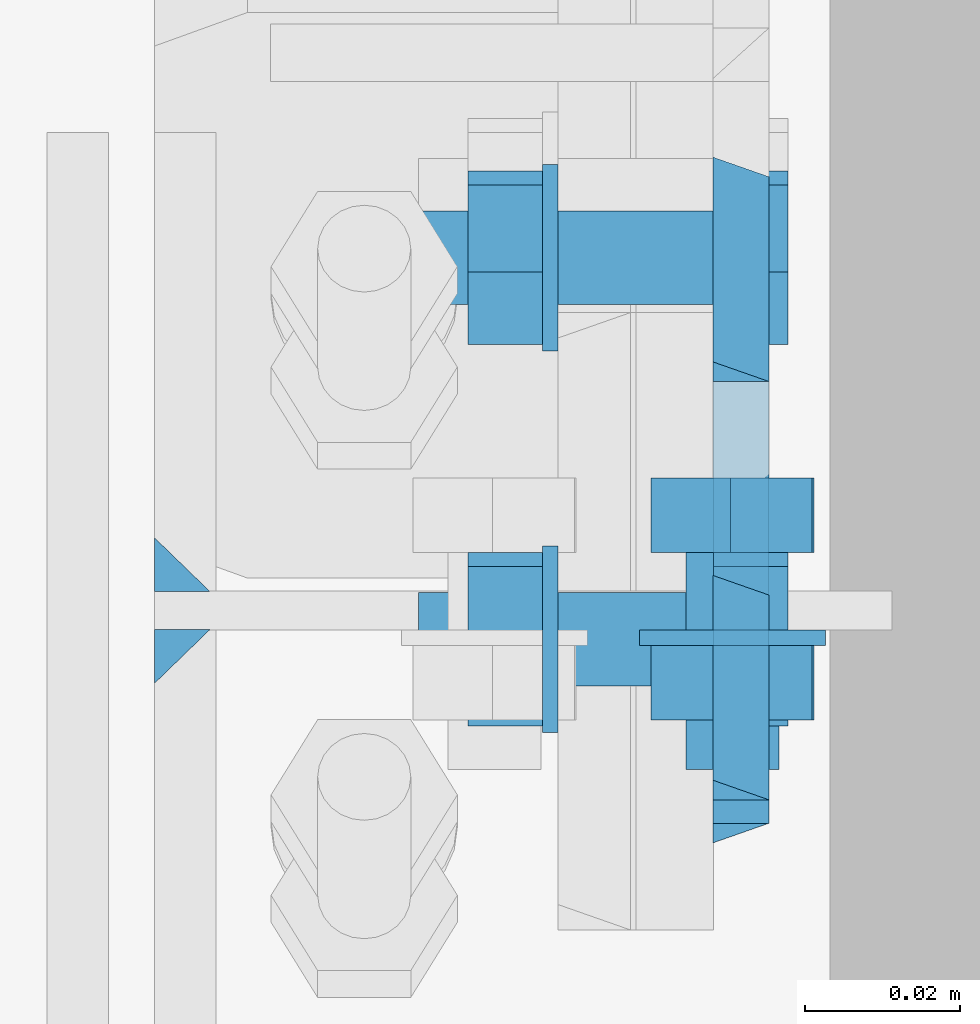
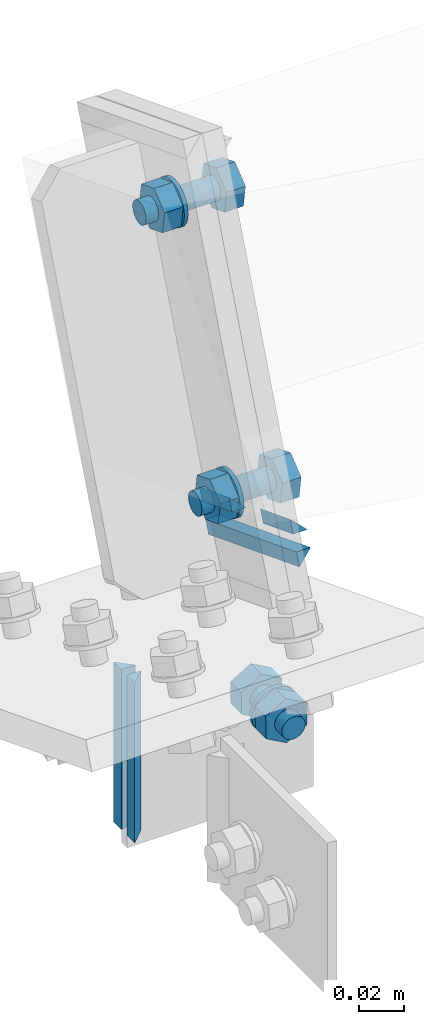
# One storey, part 41 of 72: 12 mechanical fasteners, 8 fasteners.
"""IFC4 building model written with IfcOpenShell, lengths in metres."""

import ifcopenshell
import ifcopenshell.guid

model = None  # the IFC model being written
_history = None  # IfcOwnerHistory: only IFC2X3 demands one
_inside = {}  # id of a spatial element -> (the spatial element, [elements in it])
_under = {}  # id of a project, library or spatial element -> (it, [spatial elements below it])
_declared = {}  # id of a project -> (the project, [libraries it declares])
_typed = {}  # id of a type object -> (the type object, [elements of that type])
_made_of = {}  # id of a material, layer set ... -> (it, [elements and type objects made of it])


def new_model(schema):
    """Start an empty IFC model of exactly this schema.

    Asked for "IFC4X3", IfcOpenShell would pick the latest addendum, in which some entities
    have other attributes; the version numbers below select the first issue.
    IFC2X3 requires an IfcOwnerHistory on every rooted entity: one is made here for all.
    """
    global model, _history
    if schema == "IFC4X3":
        model = ifcopenshell.file(schema_version=(4, 3, 0, 0))
    else:
        model = ifcopenshell.file(schema=schema)
    _inside.clear()
    _under.clear()
    _declared.clear()
    _typed.clear()
    _made_of.clear()
    _history = None
    if model.schema == "IFC2X3":
        org = make("IfcOrganization", Name="unknown")
        user = make(
            "IfcPersonAndOrganization",
            ThePerson=make("IfcPerson", FamilyName="unknown"),
            TheOrganization=org,
        )
        app = make(
            "IfcApplication",
            ApplicationDeveloper=org,
            Version="unknown",
            ApplicationFullName="unknown",
            ApplicationIdentifier="unknown",
        )
        _history = make(
            "IfcOwnerHistory",
            OwningUser=user,
            OwningApplication=app,
            ChangeAction="ADDED",
            CreationDate=0,
        )
    return model


def make(cls, **values):
    """One entity of the class cls with the attributes given. An attribute that is None is left unset."""
    return model.create_entity(
        cls, **{name: value for name, value in values.items() if value is not None}
    )


def rooted(cls, **values):
    """An entity with a GlobalId (a new one), such as an element, a storey or a relation."""
    return make(cls, GlobalId=ifcopenshell.guid.new(), OwnerHistory=_history, **values)


def si_unit(unit_type, name, prefix=None):
    """IfcSIUnit, for example si_unit("LENGTHUNIT", "METRE", prefix="MILLI")."""
    return make("IfcSIUnit", UnitType=unit_type, Prefix=prefix, Name=name)


def assignment(units):
    """IfcUnitAssignment: the units of a project."""
    return None if units is None else make("IfcUnitAssignment", Units=units)


def point(xyz):
    """IfcCartesianPoint."""
    return None if xyz is None else make("IfcCartesianPoint", Coordinates=xyz)


def direction(xyz):
    """IfcDirection."""
    return None if xyz is None else make("IfcDirection", DirectionRatios=xyz)


def frame(location, z_axis=None, x_axis=None):
    """IfcAxis2Placement3D, a coordinate frame: its origin and axes. An axis left out is left unset."""
    return make(
        "IfcAxis2Placement3D",
        Location=point(location),
        Axis=direction(z_axis),
        RefDirection=direction(x_axis),
    )


def origin_with_axes():
    """The frame at (0, 0, 0) with the z axis (0, 0, 1) and the x axis (1, 0, 0) written out."""
    return frame((0.0, 0.0, 0.0), z_axis=(0.0, 0.0, 1.0), x_axis=(1.0, 0.0, 0.0))


def place(relative_to, where):
    """IfcLocalPlacement: puts the frame where relative to a parent placement (None: the world)."""
    return make(
        "IfcLocalPlacement", PlacementRelTo=relative_to, RelativePlacement=where
    )


def context(
    kind, dimensions, precision=None, world=None, true_north=None, identifier=None
):
    """IfcGeometricRepresentationContext, for example the 3D "Model" context."""
    return make(
        "IfcGeometricRepresentationContext",
        ContextIdentifier=identifier,
        ContextType=kind,
        CoordinateSpaceDimension=dimensions,
        Precision=precision,
        WorldCoordinateSystem=world,
        TrueNorth=true_north,
    )


def project(units=None, contexts=None):
    """IfcProject with its units and contexts."""
    return rooted(
        "IfcProject",
        Name="project",
        RepresentationContexts=contexts,
        UnitsInContext=assignment(units),
    )


def spatial(cls, under=None, at=None, **own):
    """A site, building, storey or space (cls), placed at a placement, below another one or the project."""
    s = rooted(cls, ObjectPlacement=at, **own)
    if under is not None:
        _under.setdefault(under.id(), (under, []))[1].append(s)
    return s


def polyline(points):
    """IfcPolyline through the points."""
    return make("IfcPolyline", Points=[point(p) for p in points])


def outline(outer, holes=None, kind="AREA"):
    """IfcArbitraryClosedProfileDef: a profile drawn as a closed curve; with holes, ...WithVoids."""
    if holes is None:
        return make("IfcArbitraryClosedProfileDef", ProfileType=kind, OuterCurve=outer)
    return make(
        "IfcArbitraryProfileDefWithVoids",
        ProfileType=kind,
        OuterCurve=outer,
        InnerCurves=holes,
    )


def extrude(swept, where, along, depth):
    """IfcExtrudedAreaSolid: the profile swept, set in the frame where, extruded along a direction by depth."""
    return make(
        "IfcExtrudedAreaSolid",
        SweptArea=swept,
        Position=where,
        ExtrudedDirection=direction(along),
        Depth=depth,
    )


def shape(context_of_items, identifier, shape_type, items):
    """IfcShapeRepresentation: the items that make up one representation, for example the "Body"."""
    return make(
        "IfcShapeRepresentation",
        ContextOfItems=context_of_items,
        RepresentationIdentifier=identifier,
        RepresentationType=shape_type,
        Items=items,
    )


def made_of(thing, what):
    """Note that an element or type object is made of a material, layer set ...; save() writes the relation."""
    if what is not None:
        _made_of.setdefault(what.id(), (what, []))[1].append(thing)
    return thing


def type_object(cls, material=None, **own):
    """A type object (cls), such as IfcWallType, which elements share."""
    return made_of(rooted(cls, **own), material)


def element(
    cls,
    number,
    at=None,
    inside=None,
    cuts=None,
    type_object=None,
    material=None,
    context=None,
    identifier="Body",
    shape_type=None,
    held_by="IfcProductDefinitionShape",
    body=None,
    shapes=None,
    **own,
):
    """One element of the class cls, such as IfcWall. Its Tag is "e" and its number.

    at: its placement. inside: the storey or other place that contains it. cuts: it is an
    opening in that element (IfcRelVoidsElement). A single representation is given by context,
    identifier, shape_type and body (its items); several are given by shapes. held_by: the class
    of the entity that holds the representations. save() writes the other relations.
    """
    e = rooted(cls, Tag="e%d" % number, ObjectPlacement=at, **own)
    if body is not None:
        shapes = [shape(context, identifier, shape_type, body)]
    if shapes is not None:
        e.Representation = make(held_by, Representations=shapes)
    if inside is not None:
        _inside.setdefault(inside.id(), (inside, []))[1].append(e)
    if cuts is not None:
        rooted(
            "IfcRelVoidsElement", RelatingBuildingElement=cuts, RelatedOpeningElement=e
        )
    if type_object is not None:
        _typed.setdefault(type_object.id(), (type_object, []))[1].append(e)
    return made_of(e, material)


def aggregate(whole, parts):
    """IfcRelAggregates: a whole, such as a stair, and the parts it consists of."""
    return rooted("IfcRelAggregates", RelatingObject=whole, RelatedObjects=parts)


def save(model, path):
    """Write the relations noted so far, then the file.

    IfcRelAggregates (storeys below a building ...), IfcRelContainedInSpatialStructure (elements
    in a storey), IfcRelDefinesByType, IfcRelAssociatesMaterial and IfcRelDeclares: one each for
    every whole, place, type object, material and project.
    """
    for whole, parts in _under.values():
        aggregate(whole, parts)
    for where, things in _inside.values():
        rooted(
            "IfcRelContainedInSpatialStructure",
            RelatedElements=things,
            RelatingStructure=where,
        )
    for kind, things in _typed.values():
        rooted("IfcRelDefinesByType", RelatedObjects=things, RelatingType=kind)
    for what, things in _made_of.values():
        rooted("IfcRelAssociatesMaterial", RelatedObjects=things, RelatingMaterial=what)
    for by, libraries in _declared.values():
        rooted("IfcRelDeclares", RelatingContext=by, RelatedDefinitions=libraries)
    model.write(path)


model = new_model("IFC4")

# Units and contexts
model_context = context("Model", 3, precision=1e-05, world=origin_with_axes())
ifc_project = project(units=[si_unit("LENGTHUNIT", "METRE"), si_unit("AREAUNIT", "SQUARE_METRE"), si_unit("VOLUMEUNIT", "CUBIC_METRE"), si_unit("MASSUNIT", "GRAM", prefix="KILO"), si_unit("TIMEUNIT", "SECOND"), si_unit("PLANEANGLEUNIT", "RADIAN"), si_unit("SOLIDANGLEUNIT", "STERADIAN"), si_unit("THERMODYNAMICTEMPERATUREUNIT", "DEGREE_CELSIUS")], contexts=[model_context])

# Site, building, storey
placement_1 = place(None, origin_with_axes())
site = spatial("IfcSite", under=ifc_project, at=placement_1, Name="Italia", CompositionType="ELEMENT")
building = spatial("IfcBuilding", under=site, at=placement_1, Name="Uffici", CompositionType="ELEMENT")
storey = spatial("IfcBuildingStorey", under=building, at=placement_1, Name="Storey 0", CompositionType="ELEMENT", Elevation=0.0)

# Mechanical fasteners
mechanical_fastener_type_1 = type_object("IfcMechanicalFastenerType", Name="Collegamento 0206_0107", PredefinedType="BOLT")
placement_2 = place(placement_1, origin_with_axes())
mechanical_fastener_1_placement = place(placement_2, origin_with_axes())
element("IfcMechanicalFastener", 1, at=mechanical_fastener_1_placement, inside=storey, type_object=mechanical_fastener_type_1, Name="Collegamento 0206_0107", NominalDiameter=0.0119996, context=model_context, shape_type="SweptSolid", body=[
    extrude(outline(polyline([(0.0, 0.0), (0.0105101, 0.00579119), (0.0107499, 0.0177884), (0.000479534, 0.0239949), (-0.0100306, 0.0182037), (-0.0102704, 0.00620651), (0.0, 0.0)])), frame((0.0776865, 4.8225, 5.05742), z_axis=(0.0, 1.0, 0.0), x_axis=(-1.0, 0.0, 0.0)), (0.0, 0.0, 1.0), 0.00960016),
])
mechanical_fastener_type_2 = type_object("IfcMechanicalFastenerType", Name="Collegamento 0206_0107", PredefinedType="BOLT")
mechanical_fastener_2_placement = place(placement_2, origin_with_axes())
element("IfcMechanicalFastener", 2, at=mechanical_fastener_2_placement, inside=storey, type_object=mechanical_fastener_type_2, Name="Collegamento 0206_0107", NominalDiameter=0.012, context=model_context, shape_type="SweptSolid", body=[
    extrude(outline(polyline([(0.0, 0.0), (-0.000204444, -0.00155306), (-0.000803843, -0.00299978), (-0.00175735, -0.00424242), (-0.003, -0.00519609), (-0.00444708, -0.00579548), (-0.006, -0.00600004), (-0.00755291, -0.00579548), (-0.009, -0.00519609), (-0.0102426, -0.00424242), (-0.0111962, -0.00299978), (-0.0117956, -0.00155306), (-0.012, 0.0), (-0.0117956, 0.00155306), (-0.0111962, 0.00299978), (-0.0102426, 0.00424242), (-0.009, 0.00519609), (-0.00755291, 0.00579548), (-0.006, 0.00600004), (-0.00444708, 0.00579548), (-0.003, 0.00519609), (-0.00175735, 0.00424242), (-0.000803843, 0.00299978), (-0.000204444, 0.00155306), (0.0, 0.0)])), frame((0.0714468, 4.7945, 5.06941), z_axis=(0.0, 1.0, 0.0), x_axis=(-1.0, 0.0, 0.0)), (0.0, 0.0, 1.0), 0.0279999),
])
mechanical_fastener_type_3 = type_object("IfcMechanicalFastenerType", Name="Collegamento 0206_0107", PredefinedType="BOLT")
mechanical_fastener_3_placement = place(placement_2, origin_with_axes())
element("IfcMechanicalFastener", 3, at=mechanical_fastener_3_placement, inside=storey, type_object=mechanical_fastener_type_3, Name="Collegamento 0206_0107", NominalDiameter=0.0119996, context=model_context, shape_type="SweptSolid", body=[
    extrude(outline(polyline([(0.0, 0.0), (0.0105101, 0.00579119), (0.0107499, 0.0177884), (0.000479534, 0.0239949), (-0.0100306, 0.0182037), (-0.0102704, 0.00620651), (0.0, 0.0)])), frame((0.0776865, 4.8009, 5.05742), z_axis=(0.0, 1.0, 0.0), x_axis=(-1.0, 0.0, 0.0)), (0.0, 0.0, 1.0), 0.00960016),
])
mechanical_fastener_type_4 = type_object("IfcMechanicalFastenerType", Name="Collegamento 0206_0107", PredefinedType="BOLT")
mechanical_fastener_4_placement = place(placement_2, origin_with_axes())
element("IfcMechanicalFastener", 4, at=mechanical_fastener_4_placement, inside=storey, type_object=mechanical_fastener_type_4, Name="Collegamento 0206_0107", NominalDiameter=0.024, context=model_context, shape_type="SweptSolid", body=[
    extrude(outline(polyline([(0.0, 0.0), (-0.000408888, -0.00310564), (-0.0016077, -0.00600004), (-0.00351472, -0.00848532), (-0.006, -0.0103922), (-0.00889418, -0.011591), (-0.012, -0.0120001), (-0.0151058, -0.011591), (-0.018, -0.0103922), (-0.0204853, -0.00848532), (-0.0223923, -0.00600004), (-0.0235911, -0.00310564), (-0.024, 0.0), (-0.0235911, 0.00310564), (-0.0223923, 0.00600004), (-0.0204853, 0.00848532), (-0.018, 0.0103922), (-0.0151058, 0.011591), (-0.012, 0.0120001), (-0.00889418, 0.011591), (-0.006, 0.0103922), (-0.00351471, 0.00848532), (-0.00160769, 0.00600004), (-0.000408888, 0.00310564), (0.0, 0.0)])), frame((0.0654468, 4.8105, 5.06941), z_axis=(0.0, 1.0, 0.0), x_axis=(-1.0, 0.0, 0.0)), (0.0, 0.0, 1.0), 0.00199986),
])

# Fasteners
fastener_type_1 = type_object("IfcFastenerType", Name="Collegamento 0206_0107", PredefinedType="WELD")
fastener_1_placement = place(placement_2, origin_with_axes())
element("IfcFastener", 5, at=fastener_1_placement, inside=storey, type_object=fastener_type_1, Name="Collegamento 0206_0107", context=model_context, shape_type="SweptSolid", body=[
    extrude(outline(polyline([(0.0, 0.0), (0.00695801, 0.00717336), (0.00695801, 0.0), (0.0, 0.0)])), frame((0.00295, 4.80559, 5.113), z_axis=(4.78643472e-07, 0.0, -1.0), x_axis=(0.0, 1.0, 0.0)), (0.0, 0.0, 1.0), 0.0860996),
])
fastener_type_2 = type_object("IfcFastenerType", Name="Collegamento 0206_0107", PredefinedType="WELD")
fastener_2_placement = place(placement_2, origin_with_axes())
element("IfcFastener", 6, at=fastener_2_placement, inside=storey, type_object=fastener_type_2, Name="Collegamento 0206_0107", context=model_context, shape_type="SweptSolid", body=[
    extrude(outline(polyline([(0.0, 0.0), (-0.00695801, -0.00717336), (-0.00695801, 0.0), (0.0, 0.0)])), frame((0.00295004, 4.82441, 5.0269), z_axis=(-4.78643472e-07, 0.0, 1.0), x_axis=(0.0, 1.0, 0.0)), (0.0, 0.0, 1.0), 0.0860996),
])
fastener_type_3 = type_object("IfcFastenerType", Name="Collegamento 0206_0207", PredefinedType="WELD")
fastener_3_placement = place(placement_2, origin_with_axes())
element("IfcFastener", 7, at=fastener_3_placement, inside=storey, type_object=fastener_type_3, Name="Collegamento 0206_0207", context=model_context, shape_type="SweptSolid", body=[
    extrude(outline(polyline([(0.0, 0.0), (0.00717336, -0.00695753), (0.0, -0.00695753), (0.0, 0.0)])), frame((0.07495, 4.87342, 5.15233), z_axis=(0.0, -0.932390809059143, 0.361451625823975), x_axis=(1.0, 0.0, 0.0)), (0.0, 0.0, 1.0), 0.0283001),
])
fastener_type_4 = type_object("IfcFastenerType", Name="Collegamento 0206_0207", PredefinedType="WELD")
fastener_4_placement = place(placement_2, origin_with_axes())
element("IfcFastener", 8, at=fastener_4_placement, inside=storey, type_object=fastener_type_4, Name="Collegamento 0206_0207", context=model_context, shape_type="SweptSolid", body=[
    extrude(outline(polyline([(0.0, 0.0), (-0.00717336, 0.00695848), (0.0, 0.00695848), (0.0, 0.0)])), frame((0.07495, 4.78507, 5.16264), z_axis=(0.0, 0.932385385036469, -0.361465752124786), x_axis=(-1.0, 0.0, 0.0)), (0.0, 0.0, 1.0), 0.0861),
])
fastener_type_5 = type_object("IfcFastenerType", Name="Collegamento 0206_0207", PredefinedType="WELD")
fastener_5_placement = place(placement_2, origin_with_axes())
element("IfcFastener", 9, at=fastener_5_placement, inside=storey, type_object=fastener_type_5, Name="Collegamento 0206_0207", context=model_context, shape_type="SweptSolid", body=[
    extrude(outline(polyline([(0.0, 0.0), (0.00717336, -0.00695801), (0.0, -0.00695801), (0.0, 0.0)])), frame((0.07495, 4.81952, 5.17322), z_axis=(0.0, -0.932381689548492, 0.361475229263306), x_axis=(1.0, 0.0, 0.0)), (0.0, 0.0, 1.0), 0.0283009),
])
fastener_type_6 = type_object("IfcFastenerType", Name="Collegamento 0206_0207", PredefinedType="WELD")
fastener_6_placement = place(placement_2, origin_with_axes())
element("IfcFastener", 10, at=fastener_6_placement, inside=storey, type_object=fastener_type_6, Name="Collegamento 0206_0207", context=model_context, shape_type="SweptSolid", body=[
    extrude(outline(polyline([(0.0, 0.0), (0.00717336, -0.00695753), (0.0, -0.00695753), (0.0, 0.0)])), frame((0.07495, 4.87342, 5.15233), z_axis=(0.0, -0.932390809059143, 0.361451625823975), x_axis=(1.0, 0.0, 0.0)), (0.0, 0.0, 1.0), 0.0283001),
])
fastener_type_7 = type_object("IfcFastenerType", Name="Collegamento 0206_0207", PredefinedType="WELD")
fastener_7_placement = place(placement_2, origin_with_axes())
element("IfcFastener", 11, at=fastener_7_placement, inside=storey, type_object=fastener_type_7, Name="Collegamento 0206_0207", context=model_context, shape_type="SweptSolid", body=[
    extrude(outline(polyline([(0.0, 0.0), (-0.00717336, 0.00695848), (0.0, 0.00695848), (0.0, 0.0)])), frame((0.07495, 4.78507, 5.16264), z_axis=(0.0, 0.932385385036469, -0.361465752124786), x_axis=(-1.0, 0.0, 0.0)), (0.0, 0.0, 1.0), 0.0861),
])
fastener_type_8 = type_object("IfcFastenerType", Name="Collegamento 0206_0207", PredefinedType="WELD")
fastener_8_placement = place(placement_2, origin_with_axes())
element("IfcFastener", 12, at=fastener_8_placement, inside=storey, type_object=fastener_type_8, Name="Collegamento 0206_0207", context=model_context, shape_type="SweptSolid", body=[
    extrude(outline(polyline([(0.0, 0.0), (0.00717336, -0.00695801), (0.0, -0.00695801), (0.0, 0.0)])), frame((0.07495, 4.81952, 5.17322), z_axis=(0.0, -0.932381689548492, 0.361475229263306), x_axis=(1.0, 0.0, 0.0)), (0.0, 0.0, 1.0), 0.0283009),
])

# Mechanical fasteners
mechanical_fastener_type_5 = type_object("IfcMechanicalFastenerType", Name="Collegamento 0206_0207", PredefinedType="BOLT")
mechanical_fastener_5_placement = place(placement_2, origin_with_axes())
element("IfcMechanicalFastener", 13, at=mechanical_fastener_5_placement, inside=storey, type_object=mechanical_fastener_type_5, Name="Collegamento 0206_0207", NominalDiameter=0.0119998, context=model_context, shape_type="SweptSolid", body=[
    extrude(outline(polyline([(0.0, 0.0), (-0.0111885, 0.00433731), (-0.0130267, 0.0161958), (-0.00367594, 0.0237169), (0.00751257, 0.0193791), (0.00935078, 0.00752068), (0.0, 0.0)])), frame((0.075, 4.81314, 5.18234), z_axis=(1.0, 0.0, 0.0), x_axis=(0.0, 1.0, 0.0)), (0.0, 0.0, 1.0), 0.0096),
])
mechanical_fastener_type_6 = type_object("IfcMechanicalFastenerType", Name="Collegamento 0206_0207", PredefinedType="BOLT")
mechanical_fastener_6_placement = place(placement_2, origin_with_axes())
element("IfcMechanicalFastener", 14, at=mechanical_fastener_6_placement, inside=storey, type_object=mechanical_fastener_type_6, Name="Collegamento 0206_0207", NominalDiameter=0.012, context=model_context, shape_type="SweptSolid", body=[
    extrude(outline(polyline([(0.0, 0.0), (-0.000204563, -0.00155306), (-0.000803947, -0.00299978), (-0.00175762, -0.00424242), (-0.00300026, -0.00519609), (-0.00444698, -0.00579548), (-0.00600004, -0.00600004), (-0.0075531, -0.00579548), (-0.00899982, -0.00519609), (-0.0102425, -0.00424242), (-0.0111961, -0.00299978), (-0.0117955, -0.00155306), (-0.0120001, 0.0), (-0.0117955, 0.00155306), (-0.0111961, 0.00299978), (-0.0102425, 0.00424242), (-0.00899982, 0.00519609), (-0.0075531, 0.00579548), (-0.00600004, 0.00600004), (-0.00444698, 0.00579548), (-0.00300026, 0.00519609), (-0.00175762, 0.00424242), (-0.000803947, 0.00299978), (-0.000204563, 0.00155306), (0.0, 0.0)])), frame((0.037, 4.8173, 5.1942), z_axis=(1.0, 0.0, 0.0), x_axis=(0.0, 1.0, 0.0)), (0.0, 0.0, 1.0), 0.038),
])
mechanical_fastener_type_7 = type_object("IfcMechanicalFastenerType", Name="Collegamento 0206_0207", PredefinedType="BOLT")
mechanical_fastener_7_placement = place(placement_2, origin_with_axes())
element("IfcMechanicalFastener", 15, at=mechanical_fastener_7_placement, inside=storey, type_object=mechanical_fastener_type_7, Name="Collegamento 0206_0207", NominalDiameter=0.0119998, context=model_context, shape_type="SweptSolid", body=[
    extrude(outline(polyline([(0.0, 0.0), (-0.0111885, 0.00433731), (-0.0130267, 0.0161958), (-0.00367594, 0.0237169), (0.00751257, 0.0193791), (0.00935078, 0.00752068), (0.0, 0.0)])), frame((0.0434, 4.81314, 5.18234), z_axis=(1.0, 0.0, 0.0), x_axis=(0.0, 1.0, 0.0)), (0.0, 0.0, 1.0), 0.0096),
])
mechanical_fastener_type_8 = type_object("IfcMechanicalFastenerType", Name="Collegamento 0206_0207", PredefinedType="BOLT")
mechanical_fastener_8_placement = place(placement_2, origin_with_axes())
element("IfcMechanicalFastener", 16, at=mechanical_fastener_8_placement, inside=storey, type_object=mechanical_fastener_type_8, Name="Collegamento 0206_0207", NominalDiameter=0.024, context=model_context, shape_type="SweptSolid", body=[
    extrude(outline(polyline([(0.0, 0.0), (-0.000409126, -0.00310564), (-0.00160789, -0.00600004), (-0.00351477, -0.00848532), (-0.00600004, -0.0103922), (-0.00889444, -0.011591), (-0.0120001, -0.0120001), (-0.0151057, -0.011591), (-0.0180001, -0.0103922), (-0.0204854, -0.00848532), (-0.0223923, -0.00600004), (-0.023591, -0.00310564), (-0.0240002, 0.0), (-0.023591, 0.00310564), (-0.0223923, 0.00600004), (-0.0204854, 0.00848532), (-0.0180001, 0.0103922), (-0.0151057, 0.011591), (-0.0120001, 0.0120001), (-0.00889444, 0.011591), (-0.00600004, 0.0103922), (-0.00351477, 0.00848532), (-0.00160789, 0.00600004), (-0.000409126, 0.00310564), (0.0, 0.0)])), frame((0.053, 4.8233, 5.1942), z_axis=(1.0, 0.0, 0.0), x_axis=(0.0, 1.0, 0.0)), (0.0, 0.0, 1.0), 0.002),
])
mechanical_fastener_type_9 = type_object("IfcMechanicalFastenerType", Name="Collegamento 0206_0207", PredefinedType="BOLT")
mechanical_fastener_9_placement = place(placement_2, origin_with_axes())
element("IfcMechanicalFastener", 17, at=mechanical_fastener_9_placement, inside=storey, type_object=mechanical_fastener_type_9, Name="Collegamento 0206_0207", NominalDiameter=0.0119998, context=model_context, shape_type="SweptSolid", body=[
    extrude(outline(polyline([(0.0, 0.0), (-0.0111885, 0.00433731), (-0.0130262, 0.0161958), (-0.00367546, 0.0237164), (0.00751305, 0.0193791), (0.00935078, 0.00752068), (0.0, 0.0)])), frame((0.075, 4.8623, 5.30915), z_axis=(1.0, 0.0, 0.0), x_axis=(0.0, 1.0, 0.0)), (0.0, 0.0, 1.0), 0.0096),
])
mechanical_fastener_type_10 = type_object("IfcMechanicalFastenerType", Name="Collegamento 0206_0207", PredefinedType="BOLT")
mechanical_fastener_10_placement = place(placement_2, origin_with_axes())
element("IfcMechanicalFastener", 18, at=mechanical_fastener_10_placement, inside=storey, type_object=mechanical_fastener_type_10, Name="Collegamento 0206_0207", NominalDiameter=0.012, context=model_context, shape_type="SweptSolid", body=[
    extrude(outline(polyline([(0.0, 0.0), (-0.000204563, -0.00155306), (-0.000803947, -0.00299978), (-0.00175762, -0.00424242), (-0.00300026, -0.00519609), (-0.00444698, -0.00579548), (-0.00600004, -0.00600004), (-0.0075531, -0.00579548), (-0.00899982, -0.00519609), (-0.0102425, -0.00424242), (-0.0111961, -0.00299978), (-0.0117955, -0.00155306), (-0.0120001, 0.0), (-0.0117955, 0.00155306), (-0.0111961, 0.00299978), (-0.0102425, 0.00424242), (-0.00899982, 0.00519609), (-0.0075531, 0.00579548), (-0.00600004, 0.00600004), (-0.00444698, 0.00579548), (-0.00300026, 0.00519609), (-0.00175762, 0.00424242), (-0.000803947, 0.00299978), (-0.000204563, 0.00155306), (0.0, 0.0)])), frame((0.037, 4.86646, 5.32101), z_axis=(1.0, 0.0, 0.0), x_axis=(0.0, 1.0, 0.0)), (0.0, 0.0, 1.0), 0.038),
])
mechanical_fastener_type_11 = type_object("IfcMechanicalFastenerType", Name="Collegamento 0206_0207", PredefinedType="BOLT")
mechanical_fastener_11_placement = place(placement_2, origin_with_axes())
element("IfcMechanicalFastener", 19, at=mechanical_fastener_11_placement, inside=storey, type_object=mechanical_fastener_type_11, Name="Collegamento 0206_0207", NominalDiameter=0.0119998, context=model_context, shape_type="SweptSolid", body=[
    extrude(outline(polyline([(0.0, 0.0), (-0.0111885, 0.00433731), (-0.0130262, 0.0161958), (-0.00367546, 0.0237164), (0.00751305, 0.0193791), (0.00935078, 0.00752068), (0.0, 0.0)])), frame((0.0434, 4.8623, 5.30915), z_axis=(1.0, 0.0, 0.0), x_axis=(0.0, 1.0, 0.0)), (0.0, 0.0, 1.0), 0.0096),
])
mechanical_fastener_type_12 = type_object("IfcMechanicalFastenerType", Name="Collegamento 0206_0207", PredefinedType="BOLT")
mechanical_fastener_12_placement = place(placement_2, origin_with_axes())
element("IfcMechanicalFastener", 20, at=mechanical_fastener_12_placement, inside=storey, type_object=mechanical_fastener_type_12, Name="Collegamento 0206_0207", NominalDiameter=0.024, context=model_context, shape_type="SweptSolid", body=[
    extrude(outline(polyline([(0.0, 0.0), (-0.000409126, -0.00310564), (-0.00160789, -0.00600004), (-0.00351477, -0.00848532), (-0.00600004, -0.0103922), (-0.00889444, -0.011591), (-0.0120001, -0.0120001), (-0.0151057, -0.011591), (-0.0180001, -0.0103922), (-0.0204854, -0.00848532), (-0.0223923, -0.00600004), (-0.023591, -0.00310564), (-0.0240002, 0.0), (-0.023591, 0.00310564), (-0.0223923, 0.00600004), (-0.0204854, 0.00848532), (-0.0180001, 0.0103922), (-0.0151057, 0.011591), (-0.0120001, 0.0120001), (-0.00889444, 0.011591), (-0.00600004, 0.0103922), (-0.00351477, 0.00848532), (-0.00160789, 0.00600004), (-0.000409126, 0.00310564), (0.0, 0.0)])), frame((0.053, 4.87246, 5.32101), z_axis=(1.0, 0.0, 0.0), x_axis=(0.0, 1.0, 0.0)), (0.0, 0.0, 1.0), 0.002),
])

save(model, "model.ifc")
